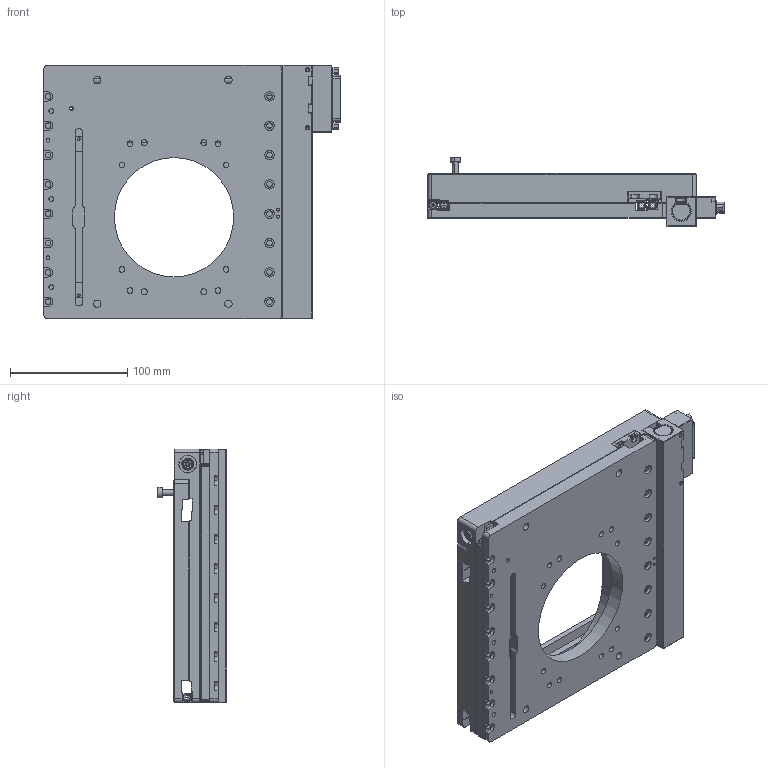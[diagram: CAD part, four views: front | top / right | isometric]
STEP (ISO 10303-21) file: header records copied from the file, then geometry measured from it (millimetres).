
FILE_DESCRIPTION (( 'STEP AP214' ), '1' );
FILE_NAME ('S505-1800B - OE-1250 ASSM (CATALOG MODEL).STEP', '2025-10-15T19:19:36', ( '' ), ( '' ), 'SwSTEP 2.0', 'SolidWorks 2025', '' );
FILE_SCHEMA (( 'AUTOMOTIVE_DESIGN' ));
Length unit declared in the file: inch
Products named in the file (1): S505-1800B - OE-1250 ASSM (CATALOG MODEL)
Bounding box: 252.43 x 58.81 x 216.02 mm (x, y, z)
Surface area: 300398 mm2 (no closed solid volume)
Topology: 0 solids, 40 shells, 1022 faces, 3381 edges, 2400 vertices
Faces by surface type: cylinder 458, plane 434, cone 91, bspline 27, torus 12
Entity records: 46051 total; most frequent: CARTESIAN_POINT 13410, DIRECTION 6417, ORIENTED_EDGE 5626, EDGE_CURVE 3381, VERTEX_POINT 2400, AXIS2_PLACEMENT_3D 2248, LINE 1921, VECTOR 1921
